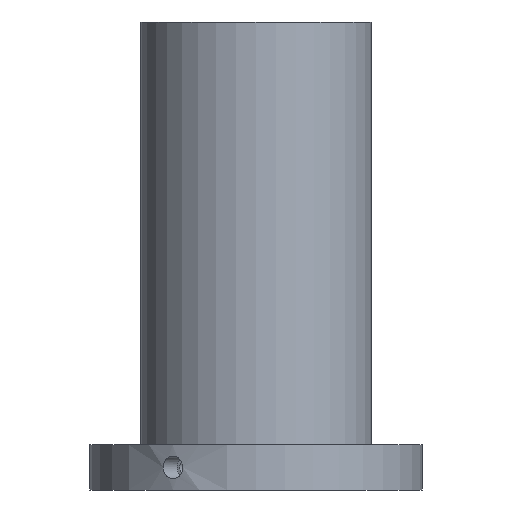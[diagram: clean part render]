
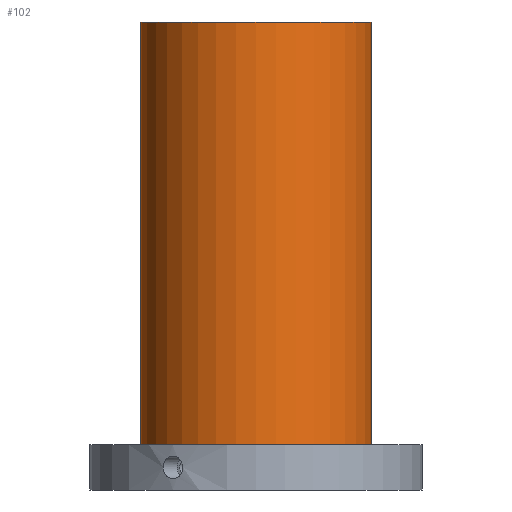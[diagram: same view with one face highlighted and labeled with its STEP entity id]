
A CAD part, front view. The second image highlights one B-rep face of the part: STEP entity #102.
In plain terms, the highlighted cylindrical face has radius 41 mm (diameter 82 mm), a full revolution.
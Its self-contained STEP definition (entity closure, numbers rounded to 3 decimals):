
#102=ADVANCED_FACE('',(#136,#137),#119,.T.);
#119=CYLINDRICAL_SURFACE('',#371,41.);
#136=FACE_BOUND('',#188,.T.);
#137=FACE_BOUND('',#189,.T.);
#188=EDGE_LOOP('',(#240));
#189=EDGE_LOOP('',(#241));
#240=ORIENTED_EDGE('',*,*,#318,.F.);
#241=ORIENTED_EDGE('',*,*,#319,.T.);
#292=VERTEX_POINT('',#557);
#293=VERTEX_POINT('',#559);
#318=EDGE_CURVE('',#292,#292,#343,.T.);
#319=EDGE_CURVE('',#293,#293,#344,.T.);
#343=CIRCLE('',#369,41.);
#344=CIRCLE('',#370,41.);
#369=AXIS2_PLACEMENT_3D('',#556,#415,#416);
#370=AXIS2_PLACEMENT_3D('',#558,#417,#418);
#371=AXIS2_PLACEMENT_3D('',#560,#419,#420);
#415=DIRECTION('',(0.,0.,-1.));
#416=DIRECTION('',(1.,0.,0.));
#417=DIRECTION('',(0.,0.,-1.));
#418=DIRECTION('',(1.,0.,0.));
#419=DIRECTION('',(0.,0.,-1.));
#420=DIRECTION('',(-1.,0.,0.));
#556=CARTESIAN_POINT('',(0.,0.,16.));
#557=CARTESIAN_POINT('',(41.,0.,16.));
#558=CARTESIAN_POINT('',(0.,0.,166.));
#559=CARTESIAN_POINT('',(41.,0.,166.));
#560=CARTESIAN_POINT('',(0.,0.,166.));
